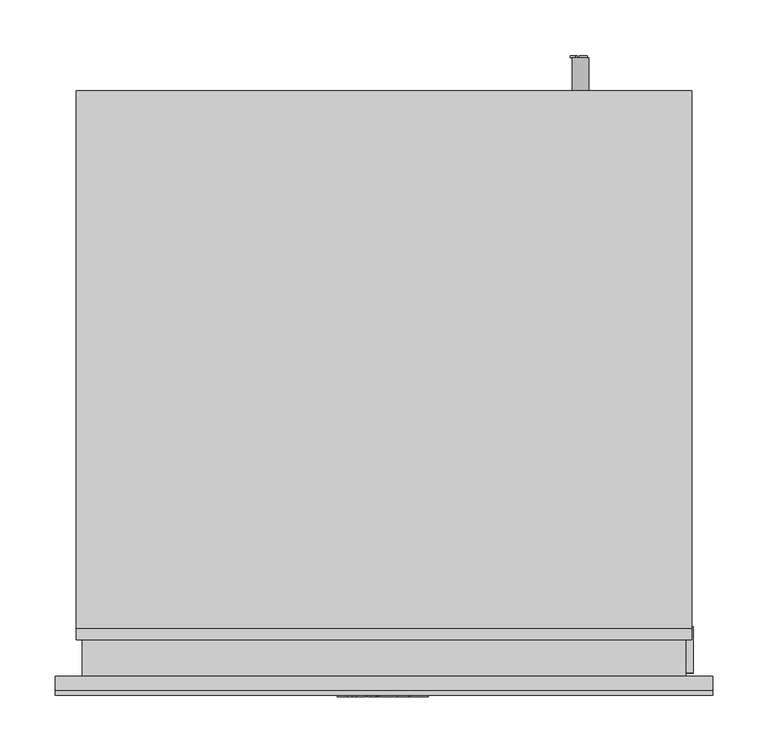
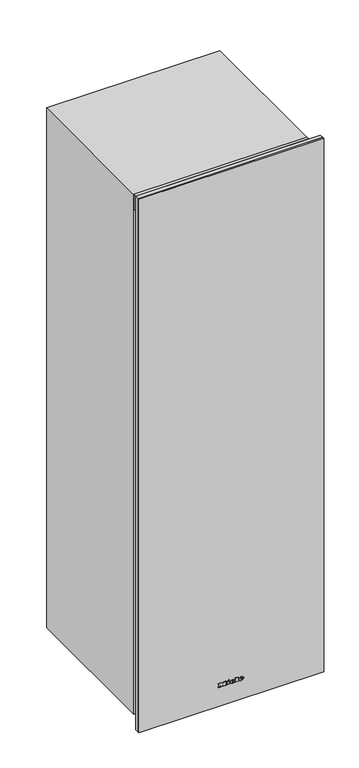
"""IFC4 building model written with IfcOpenShell, lengths in millimetres: proxy geometry, 12364310_EU1_KWT6722iGS-1_OBSW : 36672222_EU1_12364310_KWT6722iGS-1_OBSW."""

import ifcopenshell
import ifcopenshell.guid

model = None  # the IFC model being written
_history = None  # IfcOwnerHistory: only IFC2X3 demands one
_inside = {}  # id of a spatial element -> (the spatial element, [elements in it])
_under = {}  # id of a project, library or spatial element -> (it, [spatial elements below it])
_declared = {}  # id of a project -> (the project, [libraries it declares])
_typed = {}  # id of a type object -> (the type object, [elements of that type])
_made_of = {}  # id of a material, layer set ... -> (it, [elements and type objects made of it])


def new_model(schema):
    """Start an empty IFC model of exactly this schema.

    Asked for "IFC4X3", IfcOpenShell would pick the latest addendum, in which some entities
    have other attributes; the version numbers below select the first issue.
    IFC2X3 requires an IfcOwnerHistory on every rooted entity: one is made here for all.
    """
    global model, _history
    if schema == "IFC4X3":
        model = ifcopenshell.file(schema_version=(4, 3, 0, 0))
    else:
        model = ifcopenshell.file(schema=schema)
    _inside.clear()
    _under.clear()
    _declared.clear()
    _typed.clear()
    _made_of.clear()
    _history = None
    if model.schema == "IFC2X3":
        org = make("IfcOrganization", Name="unknown")
        user = make(
            "IfcPersonAndOrganization",
            ThePerson=make("IfcPerson", FamilyName="unknown"),
            TheOrganization=org,
        )
        app = make(
            "IfcApplication",
            ApplicationDeveloper=org,
            Version="unknown",
            ApplicationFullName="unknown",
            ApplicationIdentifier="unknown",
        )
        _history = make(
            "IfcOwnerHistory",
            OwningUser=user,
            OwningApplication=app,
            ChangeAction="ADDED",
            CreationDate=0,
        )
    return model


def make(cls, **values):
    """One entity of the class cls with the attributes given. An attribute that is None is left unset."""
    return model.create_entity(
        cls, **{name: value for name, value in values.items() if value is not None}
    )


def rooted(cls, **values):
    """An entity with a GlobalId (a new one), such as an element, a storey or a relation."""
    return make(cls, GlobalId=ifcopenshell.guid.new(), OwnerHistory=_history, **values)


def si_unit(unit_type, name, prefix=None):
    """IfcSIUnit, for example si_unit("LENGTHUNIT", "METRE", prefix="MILLI")."""
    return make("IfcSIUnit", UnitType=unit_type, Prefix=prefix, Name=name)


def assignment(units):
    """IfcUnitAssignment: the units of a project."""
    return None if units is None else make("IfcUnitAssignment", Units=units)


def point(xyz):
    """IfcCartesianPoint."""
    return None if xyz is None else make("IfcCartesianPoint", Coordinates=xyz)


def direction(xyz):
    """IfcDirection."""
    return None if xyz is None else make("IfcDirection", DirectionRatios=xyz)


def frame(location, z_axis=None, x_axis=None):
    """IfcAxis2Placement3D, a coordinate frame: its origin and axes. An axis left out is left unset."""
    return make(
        "IfcAxis2Placement3D",
        Location=point(location),
        Axis=direction(z_axis),
        RefDirection=direction(x_axis),
    )


def frame_2d(location, x_axis=None):
    """IfcAxis2Placement2D, a coordinate frame in the plane: its origin and x axis."""
    return make(
        "IfcAxis2Placement2D", Location=point(location), RefDirection=direction(x_axis)
    )


def origin():
    """The frame at (0, 0, 0) with its axes left unset."""
    return frame((0.0, 0.0, 0.0))


def place(relative_to, where):
    """IfcLocalPlacement: puts the frame where relative to a parent placement (None: the world)."""
    return make(
        "IfcLocalPlacement", PlacementRelTo=relative_to, RelativePlacement=where
    )


def context(
    kind, dimensions, precision=None, world=None, true_north=None, identifier=None
):
    """IfcGeometricRepresentationContext, for example the 3D "Model" context."""
    return make(
        "IfcGeometricRepresentationContext",
        ContextIdentifier=identifier,
        ContextType=kind,
        CoordinateSpaceDimension=dimensions,
        Precision=precision,
        WorldCoordinateSystem=world,
        TrueNorth=true_north,
    )


def project(units=None, contexts=None):
    """IfcProject with its units and contexts."""
    return rooted(
        "IfcProject",
        Name="project",
        RepresentationContexts=contexts,
        UnitsInContext=assignment(units),
    )


def spatial(cls, under=None, at=None, **own):
    """A site, building, storey or space (cls), placed at a placement, below another one or the project."""
    s = rooted(cls, ObjectPlacement=at, **own)
    if under is not None:
        _under.setdefault(under.id(), (under, []))[1].append(s)
    return s


def polyline(points):
    """IfcPolyline through the points."""
    return make("IfcPolyline", Points=[point(p) for p in points])


def circle_curve(where, radius):
    """IfcCircle in the frame where."""
    return make("IfcCircle", Position=where, Radius=radius)


def ellipse_curve(where, semi_axis1, semi_axis2):
    """IfcEllipse in the frame where."""
    return make(
        "IfcEllipse", Position=where, SemiAxis1=semi_axis1, SemiAxis2=semi_axis2
    )


def trimmed(basis, trim1, trim2, sense, master):
    """IfcTrimmedCurve: the piece of a basis curve between two trims."""
    return make(
        "IfcTrimmedCurve",
        BasisCurve=basis,
        Trim1=trim1,
        Trim2=trim2,
        SenseAgreement=sense,
        MasterRepresentation=master,
    )


def segment(curve, same_sense, transition):
    """IfcCompositeCurveSegment."""
    return make(
        "IfcCompositeCurveSegment",
        Transition=transition,
        SameSense=same_sense,
        ParentCurve=curve,
    )


def composite_curve(segments, self_intersect=None):
    """IfcCompositeCurve: segments joined end to end."""
    return make("IfcCompositeCurve", Segments=segments, SelfIntersect=self_intersect)


def outline(outer, holes=None, kind="AREA"):
    """IfcArbitraryClosedProfileDef: a profile drawn as a closed curve; with holes, ...WithVoids."""
    if holes is None:
        return make("IfcArbitraryClosedProfileDef", ProfileType=kind, OuterCurve=outer)
    return make(
        "IfcArbitraryProfileDefWithVoids",
        ProfileType=kind,
        OuterCurve=outer,
        InnerCurves=holes,
    )


def extrude(swept, where, along, depth):
    """IfcExtrudedAreaSolid: the profile swept, set in the frame where, extruded along a direction by depth."""
    return make(
        "IfcExtrudedAreaSolid",
        SweptArea=swept,
        Position=where,
        ExtrudedDirection=direction(along),
        Depth=depth,
    )


def faces_of(points, faces, orient=None, outer=None):
    """IfcFace entities. A face is a list of loops; a loop is a list of indices into points, from 0.

    orient and outer hold one flag for each loop. By default every Orientation is true, the
    first loop of a face is its IfcFaceOuterBound and the others are IfcFaceBound.
    """
    made = []
    for i, loops in enumerate(faces):
        bounds = []
        for j, loop in enumerate(loops):
            is_outer = j == 0 if outer is None else outer[i][j]
            bounds.append(
                make(
                    "IfcFaceOuterBound" if is_outer else "IfcFaceBound",
                    Bound=make("IfcPolyLoop", Polygon=[points[k] for k in loop]),
                    Orientation=True if orient is None else orient[i][j],
                )
            )
        made.append(make("IfcFace", Bounds=bounds))
    return made


def faceted_brep(points, faces, orient=None, outer=None, voids=None):
    """IfcFacetedBrep: a solid bounded by flat faces; with voids (closed shells), ...WithVoids."""
    shared = [point(p) for p in points]
    hull = make("IfcClosedShell", CfsFaces=faces_of(shared, faces, orient, outer))
    if voids is None:
        return make("IfcFacetedBrep", Outer=hull)
    return make(
        "IfcFacetedBrepWithVoids",
        Outer=hull,
        Voids=[
            make(cls, CfsFaces=faces_of(shared, fs, o, b)) for cls, fs, o, b in voids
        ],
    )


def shape(context_of_items, identifier, shape_type, items):
    """IfcShapeRepresentation: the items that make up one representation, for example the "Body"."""
    return make(
        "IfcShapeRepresentation",
        ContextOfItems=context_of_items,
        RepresentationIdentifier=identifier,
        RepresentationType=shape_type,
        Items=items,
    )


def source(mapping_origin, context_of_items, identifier, shape_type, items):
    """IfcRepresentationMap: a shape defined once, which mapped items show again and again."""
    return make(
        "IfcRepresentationMap",
        MappingOrigin=mapping_origin,
        MappedRepresentation=shape(context_of_items, identifier, shape_type, items),
    )


def transform(
    local_origin,
    x_axis=None,
    y_axis=None,
    z_axis=None,
    scale=None,
    scale2=None,
    scale3=None,
    uniform=True,
):
    """IfcCartesianTransformationOperator3D, or its non-uniform kind. x_axis, y_axis, z_axis: its Axis1, 2, 3."""
    if uniform:
        return make(
            "IfcCartesianTransformationOperator3D",
            Axis1=direction(x_axis),
            Axis2=direction(y_axis),
            LocalOrigin=point(local_origin),
            Scale=scale,
            Axis3=direction(z_axis),
        )
    return make(
        "IfcCartesianTransformationOperator3DnonUniform",
        Axis1=direction(x_axis),
        Axis2=direction(y_axis),
        LocalOrigin=point(local_origin),
        Scale=scale,
        Axis3=direction(z_axis),
        Scale2=scale2,
        Scale3=scale3,
    )


def mapped(mapping_source, mapping_target):
    """IfcMappedItem: shows the shape of a source again, moved by a transform."""
    return make(
        "IfcMappedItem", MappingSource=mapping_source, MappingTarget=mapping_target
    )


def made_of(thing, what):
    """Note that an element or type object is made of a material, layer set ...; save() writes the relation."""
    if what is not None:
        _made_of.setdefault(what.id(), (what, []))[1].append(thing)
    return thing


def element(
    cls,
    number,
    at=None,
    inside=None,
    cuts=None,
    type_object=None,
    material=None,
    context=None,
    identifier="Body",
    shape_type=None,
    held_by="IfcProductDefinitionShape",
    body=None,
    shapes=None,
    **own,
):
    """One element of the class cls, such as IfcWall. Its Tag is "e" and its number.

    at: its placement. inside: the storey or other place that contains it. cuts: it is an
    opening in that element (IfcRelVoidsElement). A single representation is given by context,
    identifier, shape_type and body (its items); several are given by shapes. held_by: the class
    of the entity that holds the representations. save() writes the other relations.
    """
    e = rooted(cls, Tag="e%d" % number, ObjectPlacement=at, **own)
    if body is not None:
        shapes = [shape(context, identifier, shape_type, body)]
    if shapes is not None:
        e.Representation = make(held_by, Representations=shapes)
    if inside is not None:
        _inside.setdefault(inside.id(), (inside, []))[1].append(e)
    if cuts is not None:
        rooted(
            "IfcRelVoidsElement", RelatingBuildingElement=cuts, RelatedOpeningElement=e
        )
    if type_object is not None:
        _typed.setdefault(type_object.id(), (type_object, []))[1].append(e)
    return made_of(e, material)


def aggregate(whole, parts):
    """IfcRelAggregates: a whole, such as a stair, and the parts it consists of."""
    return rooted("IfcRelAggregates", RelatingObject=whole, RelatedObjects=parts)


def save(model, path):
    """Write the relations noted so far, then the file.

    IfcRelAggregates (storeys below a building ...), IfcRelContainedInSpatialStructure (elements
    in a storey), IfcRelDefinesByType, IfcRelAssociatesMaterial and IfcRelDeclares: one each for
    every whole, place, type object, material and project.
    """
    for whole, parts in _under.values():
        aggregate(whole, parts)
    for where, things in _inside.values():
        rooted(
            "IfcRelContainedInSpatialStructure",
            RelatedElements=things,
            RelatingStructure=where,
        )
    for kind, things in _typed.values():
        rooted("IfcRelDefinesByType", RelatedObjects=things, RelatingType=kind)
    for what, things in _made_of.values():
        rooted("IfcRelAssociatesMaterial", RelatedObjects=things, RelatingMaterial=what)
    for by, libraries in _declared.values():
        rooted("IfcRelDeclares", RelatingContext=by, RelatedDefinitions=libraries)
    model.write(path)


def plane_surface(at):
    """IfcPlane: the flat surface through the origin of the frame at, square to its z axis."""
    return make("IfcPlane", Position=at)


def cylinder_surface(at, radius):
    """IfcCylindricalSurface: all points at the distance radius from the z axis of the frame at."""
    return make("IfcCylindricalSurface", Position=at, Radius=radius)


def revolved_surface(curve, axis_point, axis_direction):
    """IfcSurfaceOfRevolution: the curve turned about the line through axis_point along axis_direction."""
    return make(
        "IfcSurfaceOfRevolution",
        SweptCurve=make("IfcArbitraryOpenProfileDef", ProfileType="CURVE", Curve=curve),
        AxisPosition=make("IfcAxis1Placement", Location=point(axis_point), Axis=direction(axis_direction)),
    )


def extruded_surface(curve, direction_of_extrusion, depth):
    """IfcSurfaceOfLinearExtrusion: the curve pushed along a direction by depth."""
    return make(
        "IfcSurfaceOfLinearExtrusion",
        SweptCurve=make("IfcArbitraryOpenProfileDef", ProfileType="CURVE", Curve=curve),
        ExtrudedDirection=direction(direction_of_extrusion),
        Depth=depth,
    )


def advanced_brep(points, edges, surfaces, faces):
    """IfcAdvancedBrep: a solid bounded by faces that lie on surfaces and meet in shared edges.

    An edge is (start, end): straight between two places in points (the first is 0);
    or (start, end, curve); or (start, end, curve, False) where it runs against its curve.
    A face is (place in surfaces, loops), or (place, loops, False) where it looks against
    its surface's normal. A loop lists edges by number (the first is 1), with a minus sign
    where the edge is run from its end to its start. The first loop is the outer one.
    """
    corners = [point(p) for p in points]
    vertices = [make("IfcVertexPoint", VertexGeometry=c) for c in corners]
    made = []
    for start, end, *more in edges:
        made.append(
            make(
                "IfcEdgeCurve",
                EdgeStart=vertices[start],
                EdgeEnd=vertices[end],
                EdgeGeometry=more[0] if more else make("IfcPolyline", Points=[corners[start], corners[end]]),
                SameSense=more[1] if len(more) > 1 else True,
            )
        )
    hull = []
    for where, loops, *sense in faces:
        bounds = []
        for j, loop in enumerate(loops):
            ring = [make("IfcOrientedEdge", EdgeElement=made[abs(k) - 1], Orientation=k > 0) for k in loop]
            bounds.append(
                make(
                    "IfcFaceOuterBound" if j == 0 else "IfcFaceBound",
                    Bound=make("IfcEdgeLoop", EdgeList=ring),
                    Orientation=True,
                )
            )
        hull.append(make("IfcAdvancedFace", Bounds=bounds, FaceSurface=surfaces[where], SameSense=sense[0] if sense else True))
    return make("IfcAdvancedBrep", Outer=make("IfcClosedShell", CfsFaces=hull))


def specialty_equipment_56acea35(model_context):
    return source(origin(), model_context, "Body", "SolidModel", [
        faceted_brep([(-205.0, 427.167453, 1194.5725635), (-205.0, 92.832547, 1194.5725635), (-175.0, 92.832547, 1194.5725635), (-175.0, 105.2096606, 1194.5725635), (-140.0, 105.2096606, 1194.5725635), (-140.0, 92.832547, 1194.5725635), (-110.0, 92.832547, 1194.5725635), (-110.0, 427.167453, 1194.5725635), (-140.0, 427.167453, 1194.5725635), (-140.0, 415.167453, 1194.5725635), (-175.0, 415.167453, 1194.5725635), (-175.0, 427.167453, 1194.5725635), (-110.0, 427.167453, 1179.5725635), (-110.0, 92.832547, 1179.5725635), (-205.0, 92.832547, 1179.5725635), (-205.0, 427.167453, 1179.5725635), (-175.0, 427.167453, 1409.5725635), (-140.0, 427.167453, 1409.5725635), (-140.0, 92.832547, 1409.5725635), (-175.0, 92.832547, 1409.5725635), (-175.0, 415.167453, 1409.5725635), (-165.0, 415.167453, 1409.5725635), (-165.0, 105.2096606, 1409.5725635), (-175.0, 105.2096606, 1409.5725635), (-140.0, 105.2096606, 1409.5725635), (-158.7040205, 105.2096606, 1409.5725635), (-158.7040205, 415.167453, 1409.5725635), (-140.0, 415.167453, 1409.5725635), (-158.7040205, 415.167453, 1359.5725635), (-140.0, 415.167453, 1359.5725635), (-140.0, 415.167453, 1349.5725635), (-165.0, 415.167453, 1349.5725635), (-140.0, 105.2096606, 1359.5725635), (-140.0, 105.2096606, 1349.5725635), (-158.7040205, 105.2096606, 1359.5725635), (-165.0, 105.2096606, 1349.5725635)], [[[0, 1, 2, 3, 4, 5, 6, 7, 8, 9, 10, 11]], [[12, 13, 14, 15]], [[12, 15, 0, 11, 16, 17, 8, 7]], [[1, 0, 15, 14]], [[14, 13, 6, 5, 18, 19, 2, 1]], [[7, 6, 13, 12]], [[17, 16, 20, 21, 22, 23, 19, 18, 24, 25, 26, 27]], [[20, 16, 11, 10]], [[27, 26, 28, 29]], [[20, 10, 9, 30, 31, 21]], [[17, 27, 29, 32, 24, 18, 5, 4, 33, 30, 9, 8]], [[19, 23, 3, 2]], [[25, 24, 32, 34]], [[3, 23, 22, 35, 33, 4]], [[26, 25, 34, 28]], [[35, 31, 30, 33]], [[22, 21, 31, 35]], [[32, 29, 28, 34]]]),
        faceted_brep([(-230.0, 450.0, 1179.5725635), (-230.0, 70.0, 1179.5725635), (230.0, 70.0, 1179.5725635), (230.0, 450.0, 1179.5725635), (73.0, 448.5, 1179.5725635), (186.0, 448.5, 1179.5725635), (186.0, 368.5, 1179.5725635), (73.0, 368.5, 1179.5725635), (73.0, 351.0, 1179.5725635), (186.0, 351.0, 1179.5725635), (186.0, 269.0, 1179.5725635), (73.0, 269.0, 1179.5725635), (73.0, 251.0, 1179.5725635), (186.0, 251.0, 1179.5725635), (186.0, 171.0, 1179.5725635), (73.0, 171.0, 1179.5725635), (73.0, 153.0, 1179.5725635), (186.0, 153.0, 1179.5725635), (186.0, 73.0, 1179.5725635), (73.0, 73.0, 1179.5725635), (230.0, 450.0, 1170.0), (230.0, 70.0, 1170.0), (194.0, 70.0, 1170.0), (194.0, 450.0, 1170.0), (-230.0, 70.0, 1170.0), (-230.0, 450.0, 1170.0), (65.0, 450.0, 1170.0), (65.0, 70.0, 1170.0), (-230.0, 460.0, 1187.9661502), (230.0, 460.0, 1187.9661502), (230.0, 460.0, 1184.9661502), (-230.0, 460.0, 1184.9661502), (194.0, 460.0, 1101.0), (65.0, 460.0, 1101.0), (65.0, 460.0, 1161.9661502), (-230.0, 460.0, 1161.9661502), (-230.0, 460.0, 1164.9661502), (230.0, 460.0, 1164.9661502), (230.0, 460.0, 1161.9661502), (194.0, 460.0, 1161.9661502), (-230.0, 450.0, 1161.9661502), (-230.0, 70.0, 1161.9661502), (-230.0, 60.0, 1161.9661502), (-230.0, 60.0, 1164.9661502), (-230.0, 60.5645722, 1164.9661502), (-230.0, 60.5645722, 1184.9661502), (-230.0, 60.0, 1184.9661502), (-230.0, 60.0, 1187.9661502), (-230.0, 70.0, 1187.9661502), (-230.0, 450.0, 1187.9661502), (-230.0, 459.0, 1184.9661502), (-230.0, 459.0, 1164.9661502), (230.0, 60.0, 1187.9661502), (230.0, 60.0, 1184.9661502), (65.0, 60.0, 1101.0), (194.0, 60.0, 1101.0), (194.0, 60.0, 1161.9661502), (230.0, 60.0, 1161.9661502), (230.0, 60.0, 1164.9661502), (65.0, 60.0, 1161.9661502), (230.0, 450.0, 1187.9661502), (230.0, 70.0, 1187.9661502), (230.0, 60.5645722, 1184.9661502), (230.0, 60.5645722, 1164.9661502), (230.0, 70.0, 1161.9661502), (230.0, 450.0, 1161.9661502), (230.0, 459.0, 1164.9661502), (230.0, 459.0, 1184.9661502), (65.0, 450.0, 1161.9661502), (194.0, 450.0, 1161.9661502), (65.0, 70.0, 1161.9661502), (194.0, 70.0, 1161.9661502), (186.0, 448.5, 1128.9654333), (73.0, 448.5, 1128.9654333), (73.0, 368.5, 1128.9654333), (186.0, 368.5, 1128.9654333), (186.0, 351.0, 1128.9654333), (73.0, 351.0, 1128.9654333), (73.0, 269.0, 1128.9654333), (186.0, 269.0, 1128.9654333), (186.0, 251.0, 1128.9654333), (73.0, 251.0, 1128.9654333), (73.0, 171.0, 1128.9654333), (186.0, 171.0, 1128.9654333), (186.0, 153.0, 1128.9654333), (73.0, 153.0, 1128.9654333), (73.0, 73.0, 1128.9654333), (186.0, 73.0, 1128.9654333)], [[[0, 1, 2, 3], [4, 5, 6, 7], [8, 9, 10, 11], [12, 13, 14, 15], [16, 17, 18, 19]], [[20, 21, 22, 23]], [[24, 25, 26, 27]], [[28, 29, 30, 31]], [[32, 33, 34, 35, 36, 37, 38, 39]], [[35, 40, 25, 24, 41, 42, 43, 44, 45, 46, 47, 48, 1, 0, 49, 28, 31, 50, 51, 36]], [[52, 47, 46, 53]], [[54, 55, 56, 57, 58, 43, 42, 59]], [[29, 60, 3, 2, 61, 52, 53, 62, 63, 58, 57, 64, 21, 20, 65, 38, 37, 66, 67, 30]], [[60, 29, 28, 49]], [[25, 40, 68, 26]], [[65, 20, 23, 69]], [[60, 49, 0, 3]], [[40, 35, 34, 68]], [[38, 65, 69, 39]], [[52, 61, 48, 47]], [[42, 41, 70, 59]], [[64, 57, 56, 71]], [[41, 24, 27, 70]], [[21, 64, 71, 22]], [[48, 61, 2, 1]], [[54, 33, 32, 55]], [[33, 54, 59, 70, 27, 26, 68, 34]], [[55, 32, 39, 69, 23, 22, 71, 56]], [[72, 73, 74, 75]], [[76, 77, 78, 79]], [[80, 81, 82, 83]], [[84, 85, 86, 87]], [[73, 72, 5, 4]], [[74, 73, 4, 7]], [[75, 74, 7, 6]], [[72, 75, 6, 5]], [[77, 76, 9, 8]], [[78, 77, 8, 11]], [[79, 78, 11, 10]], [[76, 79, 10, 9]], [[81, 80, 13, 12]], [[82, 81, 12, 15]], [[83, 82, 15, 14]], [[80, 83, 14, 13]], [[85, 84, 17, 16]], [[86, 85, 16, 19]], [[87, 86, 19, 18]], [[84, 87, 18, 17]], [[62, 45, 44, 63]], [[45, 62, 53, 46]], [[63, 44, 43, 58]], [[66, 51, 50, 67]], [[51, 66, 37, 36]], [[67, 50, 31, 30]]]),
        advanced_brep(
        [(30.9909978, -1.0, 48.1245173), (30.9909978, -1.0, 49.4880173), (40.0224978, -1.0, 49.4880173), (24.3084978, -1.0, 49.4880173), (28.0209978, -1.0, 44.9250173), (39.7929978, -1.0, 48.1245173), (35.7159978, -1.0, 48.1245173), (32.5029978, -1.0, 46.6125173), (30.9909978, -1.0, 51.2160173), (30.9909978, -1.0, 52.6875173), (33.2994978, -1.0, 52.6875173), (33.2994978, -1.0, 51.2160173), (30.9909978, 0.0, 48.1245173), (32.5029978, 0.0, 46.6125173), (35.7159978, 0.0, 48.1245173), (39.7929978, 0.0, 48.1245173), (28.0209978, 0.0, 44.9250173), (24.3084978, 0.0, 49.4880173), (40.0224978, 0.0, 49.4880173), (30.9909978, 0.0, 49.4880173), (30.9909978, 0.0, 51.2160173), (33.2994978, 0.0, 51.2160173), (33.2994978, 0.0, 52.6875173), (30.9909978, 0.0, 52.6875173)],
        [
            (0, 1),
            (1, 2),
            (2, 3, ellipse_curve(frame((32.1654978, -1.0, 49.4880173), z_axis=(0.0, -1.0, 0.0), x_axis=(-1.0, 0.0, 0.0)), 7.857, 6.4935)),
            (3, 4, circle_curve(frame((29.5330714, -1.0, 49.9470173), z_axis=(0.0, -1.0, 0.0), x_axis=(0.0, 0.0, -1.0)), 5.2446974)),
            (4, 5, circle_curve(frame((32.008212, -1.0, 53.5110173), z_axis=(0.0, -1.0, 0.0), x_axis=(0.0, 0.0, -1.0)), 9.46664)),
            (5, 6),
            (6, 7, circle_curve(frame((33.1629096, -1.0, 49.3800173), z_axis=(0.0, 1.0, 0.0), x_axis=(0.0, 0.0, -1.0)), 2.8450905)),
            (7, 0, circle_curve(frame((32.5029978, -1.0, 48.1245173), z_axis=(0.0, 1.0, 0.0), x_axis=(0.0, 0.0, -1.0)), 1.512)),
            (8, 9),
            (9, 10, circle_curve(frame((32.1452478, -1.0, 52.6875173), z_axis=(0.0, 1.0, 0.0), x_axis=(0.0, 0.0, -1.0)), 1.15425)),
            (10, 11),
            (11, 8),
            (12, 13, circle_curve(frame((32.5029978, 0.0, 48.1245173), z_axis=(0.0, -1.0, 0.0), x_axis=(0.0, 0.0, -1.0)), 1.512)),
            (13, 14, circle_curve(frame((33.1629096, 0.0, 49.3800173), z_axis=(0.0, -1.0, 0.0), x_axis=(0.0, 0.0, -1.0)), 2.8450905)),
            (14, 15),
            (15, 16, circle_curve(frame((32.008212, 0.0, 53.5110173), z_axis=(0.0, 1.0, 0.0), x_axis=(0.0, 0.0, -1.0)), 9.46664)),
            (16, 17, circle_curve(frame((29.5330714, 0.0, 49.9470173), z_axis=(0.0, 1.0, 0.0), x_axis=(0.0, 0.0, -1.0)), 5.2446974)),
            (17, 18, ellipse_curve(frame((32.1654978, 0.0, 49.4880173), z_axis=(0.0, 1.0, 0.0), x_axis=(-1.0, 0.0, 0.0)), 7.857, 6.4935)),
            (18, 19),
            (19, 12),
            (20, 21),
            (21, 22),
            (22, 23, circle_curve(frame((32.1452478, 0.0, 52.6875173), z_axis=(0.0, -1.0, 0.0), x_axis=(0.0, 0.0, -1.0)), 1.15425)),
            (23, 20),
            (0, 12),
            (19, 1),
            (18, 2),
            (5, 15),
            (14, 6),
            (17, 3),
            (13, 7),
            (16, 4),
            (8, 20),
            (23, 9),
            (22, 10),
            (21, 11),
        ],
        [
            plane_surface(frame((30.9909978, -1.0, 49.4880173), z_axis=(0.0, -1.0, 0.0), x_axis=(0.0, 0.0, 1.0))),
            plane_surface(frame((30.9909978, 0.0, 49.4880173), z_axis=(0.0, 1.0, 0.0), x_axis=(0.0, 0.0, -1.0))),
            plane_surface(frame((30.9909978, -1.0, 48.1245173), z_axis=(1.0, 0.0, 0.0), x_axis=(0.0, 1.0, 0.0))),
            plane_surface(frame((30.9909978, -1.0, 49.4880173), z_axis=(0.0, 0.0, -1.0), x_axis=(0.0, 1.0, 0.0))),
            plane_surface(frame((39.7929978, -1.0, 48.1245173), z_axis=(0.0, 0.0, 1.0), x_axis=(0.0, 1.0, 0.0))),
            extruded_surface(trimmed(ellipse_curve(frame((32.1654978, 1.0, 49.4880173), z_axis=(0.0, -1.0, 0.0), x_axis=(-1.0, 0.0, 0.0)), 7.857, 6.4935), [point((40.0224978, 1.0, 49.4880173))], [point((24.3084978, 1.0, 49.4880173))], True, "CARTESIAN"), (0.0, -1.0, 0.0), 1.0),
            revolved_surface(polyline([(33.1629096, 0.0, 46.5349268), (33.1629096, -1.0, 46.5349268)]), (33.1629096, 0.0, 49.3800173), (0.0, 1.0, 0.0)),
            revolved_surface(polyline([(32.5029978, 0.0, 46.6125173), (32.5029978, -1.0, 46.6125173)]), (32.5029978, 0.0, 48.1245173), (0.0, 1.0, 0.0)),
            cylinder_surface(frame((29.5330714, 0.0, 49.9470173), z_axis=(0.0, -1.0, 0.0), x_axis=(0.0, 0.0, -1.0)), 5.2446974),
            cylinder_surface(frame((32.008212, 0.0, 53.5110173), z_axis=(0.0, -1.0, 0.0), x_axis=(0.0, 0.0, -1.0)), 9.46664),
            plane_surface(frame((30.9909978, -1.0, 51.2160173), z_axis=(1.0, 0.0, 0.0), x_axis=(0.0, 1.0, 0.0))),
            revolved_surface(polyline([(32.1452478, 0.0, 51.533267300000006), (32.1452478, -1.0, 51.533267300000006)]), (32.1452478, 0.0, 52.6875173), (0.0, 1.0, 0.0)),
            plane_surface(frame((33.2994978, -1.0, 52.6875173), z_axis=(-1.0, 0.0, 0.0), x_axis=(0.0, 1.0, 0.0))),
            plane_surface(frame((33.2994978, -1.0, 51.2160173), z_axis=(0.0, 0.0, 1.0), x_axis=(0.0, 1.0, 0.0))),
        ],
        [
            (0, [[1, 2, 3, 4, 5, 6, 7, 8], [9, 10, 11, 12]]),
            (1, [[13, 14, 15, 16, 17, 18, 19, 20], [21, 22, 23, 24]]),
            (2, [[-1, 25, -20, 26]]),
            (3, [[-2, -26, -19, 27]]),
            (4, [[-6, 28, -15, 29]]),
            (5, [[-3, -27, -18, 30]]),
            (6, [[-7, -29, -14, 31]]),
            (7, [[-8, -31, -13, -25]]),
            (8, [[-4, -30, -17, 32]]),
            (9, [[-5, -32, -16, -28]]),
            (10, [[-9, 33, -24, 34]]),
            (11, [[-10, -34, -23, 35]]),
            (12, [[-11, -35, -22, 36]]),
            (13, [[-12, -36, -21, -33]]),
        ],
    ),
        advanced_brep(
        [(2.8164978, -1.0, 48.1245173), (2.8164978, -1.0, 49.4880173), (11.8479978, -1.0, 49.4880173), (-3.8660022, -1.0, 49.4880173), (-0.1535022, -1.0, 44.9250173), (11.6184978, -1.0, 48.1245173), (7.5414978, -1.0, 48.1245173), (4.3284978, -1.0, 46.6125173), (2.8164978, -1.0, 51.2160173), (2.8164978, -1.0, 52.6875173), (5.1249978, -1.0, 52.6875173), (5.1249978, -1.0, 51.2160173), (2.8164978, 0.0, 48.1245173), (4.3284978, 0.0, 46.6125173), (7.5414978, 0.0, 48.1245173), (11.6184978, 0.0, 48.1245173), (-0.1535022, 0.0, 44.9250173), (-3.8660022, 0.0, 49.4880173), (11.8479978, 0.0, 49.4880173), (2.8164978, 0.0, 49.4880173), (2.8164978, 0.0, 51.2160173), (5.1249978, 0.0, 51.2160173), (5.1249978, 0.0, 52.6875173), (2.8164978, 0.0, 52.6875173)],
        [
            (0, 1),
            (1, 2),
            (2, 3, ellipse_curve(frame((3.9909978, -1.0, 49.4880173), z_axis=(0.0, -1.0, 0.0), x_axis=(-1.0, 0.0, 0.0)), 7.857, 6.4935)),
            (3, 4, circle_curve(frame((1.3585714, -1.0, 49.9470173), z_axis=(0.0, -1.0, 0.0), x_axis=(0.0, 0.0, -1.0)), 5.2446974)),
            (4, 5, circle_curve(frame((3.833712, -1.0, 53.5110173), z_axis=(0.0, -1.0, 0.0), x_axis=(0.0, 0.0, -1.0)), 9.46664)),
            (5, 6),
            (6, 7, circle_curve(frame((4.9884096, -1.0, 49.3800173), z_axis=(0.0, 1.0, 0.0), x_axis=(0.0, 0.0, -1.0)), 2.8450905)),
            (7, 0, circle_curve(frame((4.3284978, -1.0, 48.1245173), z_axis=(0.0, 1.0, 0.0), x_axis=(0.0, 0.0, -1.0)), 1.512)),
            (8, 9),
            (9, 10, circle_curve(frame((3.9707478, -1.0, 52.6875173), z_axis=(0.0, 1.0, 0.0), x_axis=(0.0, 0.0, -1.0)), 1.15425)),
            (10, 11),
            (11, 8),
            (12, 13, circle_curve(frame((4.3284978, 0.0, 48.1245173), z_axis=(0.0, -1.0, 0.0), x_axis=(0.0, 0.0, -1.0)), 1.512)),
            (13, 14, circle_curve(frame((4.9884096, 0.0, 49.3800173), z_axis=(0.0, -1.0, 0.0), x_axis=(0.0, 0.0, -1.0)), 2.8450905)),
            (14, 15),
            (15, 16, circle_curve(frame((3.833712, 0.0, 53.5110173), z_axis=(0.0, 1.0, 0.0), x_axis=(0.0, 0.0, -1.0)), 9.46664)),
            (16, 17, circle_curve(frame((1.3585714, 0.0, 49.9470173), z_axis=(0.0, 1.0, 0.0), x_axis=(0.0, 0.0, -1.0)), 5.2446974)),
            (17, 18, ellipse_curve(frame((3.9909978, 0.0, 49.4880173), z_axis=(0.0, 1.0, 0.0), x_axis=(-1.0, 0.0, 0.0)), 7.857, 6.4935)),
            (18, 19),
            (19, 12),
            (20, 21),
            (21, 22),
            (22, 23, circle_curve(frame((3.9707478, 0.0, 52.6875173), z_axis=(0.0, -1.0, 0.0), x_axis=(0.0, 0.0, -1.0)), 1.15425)),
            (23, 20),
            (0, 12),
            (19, 1),
            (18, 2),
            (5, 15),
            (14, 6),
            (17, 3),
            (13, 7),
            (16, 4),
            (8, 20),
            (23, 9),
            (22, 10),
            (21, 11),
        ],
        [
            plane_surface(frame((2.8164978, -1.0, 49.4880173), z_axis=(0.0, -1.0, 0.0), x_axis=(0.0, 0.0, 1.0))),
            plane_surface(frame((2.8164978, 0.0, 49.4880173), z_axis=(0.0, 1.0, 0.0), x_axis=(0.0, 0.0, -1.0))),
            plane_surface(frame((2.8164978, -1.0, 48.1245173), z_axis=(1.0, 0.0, 0.0), x_axis=(0.0, 1.0, 0.0))),
            plane_surface(frame((2.8164978, -1.0, 49.4880173), z_axis=(0.0, 0.0, -1.0), x_axis=(0.0, 1.0, 0.0))),
            plane_surface(frame((11.6184978, -1.0, 48.1245173), z_axis=(0.0, 0.0, 1.0), x_axis=(0.0, 1.0, 0.0))),
            extruded_surface(trimmed(ellipse_curve(frame((3.9909978, 1.0, 49.4880173), z_axis=(0.0, -1.0, 0.0), x_axis=(-1.0, 0.0, 0.0)), 7.857, 6.4935), [point((11.8479978, 1.0, 49.4880173))], [point((-3.8660022, 1.0, 49.4880173))], True, "CARTESIAN"), (0.0, -1.0, 0.0), 1.0),
            revolved_surface(polyline([(4.9884096, 0.0, 46.5349268), (4.9884096, -1.0, 46.5349268)]), (4.9884096, 0.0, 49.3800173), (0.0, 1.0, 0.0)),
            revolved_surface(polyline([(4.3284978, 0.0, 46.6125173), (4.3284978, -1.0, 46.6125173)]), (4.3284978, 0.0, 48.1245173), (0.0, 1.0, 0.0)),
            cylinder_surface(frame((1.3585714, 0.0, 49.9470173), z_axis=(0.0, -1.0, 0.0), x_axis=(0.0, 0.0, -1.0)), 5.2446974),
            cylinder_surface(frame((3.833712, 0.0, 53.5110173), z_axis=(0.0, -1.0, 0.0), x_axis=(0.0, 0.0, -1.0)), 9.46664),
            plane_surface(frame((2.8164978, -1.0, 51.2160173), z_axis=(1.0, 0.0, 0.0), x_axis=(0.0, 1.0, 0.0))),
            revolved_surface(polyline([(3.9707478, 0.0, 51.533267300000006), (3.9707478, -1.0, 51.533267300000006)]), (3.9707478, 0.0, 52.6875173), (0.0, 1.0, 0.0)),
            plane_surface(frame((5.1249978, -1.0, 52.6875173), z_axis=(-1.0, 0.0, 0.0), x_axis=(0.0, 1.0, 0.0))),
            plane_surface(frame((5.1249978, -1.0, 51.2160173), z_axis=(0.0, 0.0, 1.0), x_axis=(0.0, 1.0, 0.0))),
        ],
        [
            (0, [[1, 2, 3, 4, 5, 6, 7, 8], [9, 10, 11, 12]]),
            (1, [[13, 14, 15, 16, 17, 18, 19, 20], [21, 22, 23, 24]]),
            (2, [[-1, 25, -20, 26]]),
            (3, [[-2, -26, -19, 27]]),
            (4, [[-6, 28, -15, 29]]),
            (5, [[-3, -27, -18, 30]]),
            (6, [[-7, -29, -14, 31]]),
            (7, [[-8, -31, -13, -25]]),
            (8, [[-4, -30, -17, 32]]),
            (9, [[-5, -32, -16, -28]]),
            (10, [[-9, 33, -24, 34]]),
            (11, [[-10, -34, -23, 35]]),
            (12, [[-11, -35, -22, 36]]),
            (13, [[-12, -36, -21, -33]]),
        ],
    ),
        extrude(outline(polyline([(57.6285173, -11.9390022), (55.4415173, -10.9130022), (57.5745173, -6.3365022), (59.7615173, -7.3490022), (57.6285173, -11.9390022)])), frame((0.0, -1.0, 0.0), z_axis=(0.0, 1.0, 0.0), x_axis=(0.0, 0.0, 1.0)), (0.0, 0.0, 1.0), 1.0),
        extrude(outline(polyline([(55.1445173, -15.2735022), (52.7280173, -15.2735022), (52.7280173, -13.6670022), (47.1930173, -13.6670022), (47.1930173, -15.2735022), (44.9250173, -15.2735022), (44.9250173, -4.6220022), (47.1930173, -4.6220022), (47.1930173, -6.1880022), (55.1445173, -6.1880022), (55.1445173, -15.2735022)])), frame((0.0, -1.0, 0.0), z_axis=(0.0, 1.0, 0.0), x_axis=(0.0, 0.0, 1.0)), (0.0, 0.0, 1.0), 1.0),
        extrude(outline(polyline([(56.2245173, 12.6039978), (56.2245173, 14.2239978), (47.1930173, 14.2239978), (47.1930173, 12.6039978), (44.9250173, 12.6039978), (44.9250173, 23.5524978), (47.1930173, 23.5524978), (47.1930173, 21.8919978), (58.4250173, 21.8919978), (58.4250173, 12.6039978), (56.2245173, 12.6039978)])), frame((0.0, -1.0, 0.0), z_axis=(0.0, 1.0, 0.0), x_axis=(0.0, 0.0, 1.0)), (0.0, 0.0, 1.0), 1.0),
        extrude(outline(polyline([(56.2245173, -42.1790022), (56.2245173, -40.5455022), (47.1930173, -40.5455022), (47.1930173, -42.1790022), (44.9250173, -42.1790022), (44.9250173, -36.2390022), (47.1930173, -36.2390022), (47.1930173, -37.8590022), (52.900642, -37.8590022), (44.9250173, -31.8245022), (53.1777396, -25.7630022), (47.1930173, -25.7630022), (47.1930173, -27.4235022), (44.9250173, -27.4235022), (44.9250173, -16.6505022), (47.1930173, -16.6505022), (47.1930173, -18.3650022), (56.2245173, -18.3650022), (56.2245173, -16.6505022), (58.4250173, -16.6505022), (58.4250173, -24.8720022), (53.3625173, -28.8140022), (58.4250173, -32.7695022), (58.4250173, -42.1790022), (56.2245173, -42.1790022)])), frame((0.0, -1.0, 0.0), z_axis=(0.0, 1.0, 0.0), x_axis=(0.0, 0.0, 1.0)), (0.0, 0.0, 1.0), 1.0),
        extrude(outline(polyline([(0.0, -5.0), (0.0, 0.0), (342.0, 0.0), (342.0, -5.0), (0.0, -5.0)])), frame((171.0, 69.1703709, 967.2940952), z_axis=(0.0, 0.25881904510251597, 0.9659258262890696), x_axis=(-1.0, 0.0, 0.0)), (0.0, 0.0, 1.0), 48.0),
        extrude(outline(composite_curve([segment(trimmed(circle_curve(frame_2d((52.0, 178.0)), 7.5), [point((52.0, 185.5))], [point((52.0, 170.5))], False, "CARTESIAN"), True, "CONTINUOUS"), segment(trimmed(circle_curve(frame_2d((52.0, 178.0)), 7.5), [point((52.0, 170.5))], [point((52.0, 185.5))], False, "CARTESIAN"), True, "CONTINUOUS")], self_intersect=False)), frame((0.0, 547.0, 0.0), z_axis=(0.0, 1.0, 0.0), x_axis=(0.0, 0.0, 1.0)), (0.0, 0.0, 1.0), 30.0),
        faceted_brep([(278.5, 547.0, 1769.0), (-278.5, 547.0, 1769.0), (-278.5, 60.0, 1769.0), (278.5, 60.0, 1769.0), (278.5, 547.0, 0.0), (278.5, 60.0, 0.0), (-278.5, 60.0, 0.0), (-278.5, 547.0, 0.0), (-230.0, 60.0, 1680.0), (230.0, 60.0, 1680.0), (230.0, 60.0, 80.0), (-230.0, 60.0, 80.0), (230.0, 460.0, 1680.0), (-230.0, 460.0, 1680.0), (-230.0, 460.0, 80.0), (230.0, 460.0, 80.0)], [[[0, 1, 2, 3]], [[4, 5, 6, 7]], [[1, 0, 4, 7]], [[2, 1, 7, 6]], [[3, 2, 6, 5], [8, 9, 10, 11]], [[0, 3, 5, 4]], [[12, 13, 14, 15]], [[13, 12, 9, 8]], [[14, 13, 8, 11]], [[15, 14, 11, 10]], [[12, 15, 10, 9]]]),
        extrude(outline(polyline([(230.0, 339.0), (-230.0, 339.0), (-230.0, 460.0), (230.0, 460.0), (230.0, 339.0)])), frame((0.0, 0.0, 80.0), z_axis=(0.0, 0.0, 1.0), x_axis=(1.0, 0.0, 0.0)), (0.0, 0.0, 1.0), 205.0),
        extrude(outline(polyline([(47.2618945, 184.0941573), (57.3075256, 184.0941573), (57.3075256, 176.87386), (56.0518217, 176.87386), (56.0518217, 182.8384535), (53.069525, 182.8384535), (53.069525, 177.187786), (51.8138211, 177.187786), (51.8138211, 182.8384535), (48.5175984, 182.8384535), (48.5175984, 176.7168971), (47.2618945, 176.7168971), (47.2618945, 184.0941573)])), frame((0.0, 577.0, 0.0), z_axis=(0.0, 1.0, 0.0), x_axis=(0.0, 0.0, 1.0)), (0.0, 0.0, 1.0), 2.0),
        extrude(outline(polyline([(47.2618945, 174.8333412), (57.3075256, 174.8333412), (57.3075256, 173.5776374), (48.5175984, 173.5776374), (48.5175984, 168.5548219), (47.2618945, 168.5548219), (47.2618945, 174.8333412)])), frame((0.0, 577.0, 0.0), z_axis=(0.0, 1.0, 0.0), x_axis=(0.0, 0.0, 1.0)), (0.0, 0.0, 1.0), 2.0),
        extrude(outline(polyline([(-278.5, 60.0), (278.5, 60.0), (278.5, 50.0), (-278.5, 50.0), (-278.5, 60.0)])), frame((0.0, 0.0, 1720.0), z_axis=(0.0, 0.0, 1.0), x_axis=(1.0, 0.0, 0.0)), (0.0, 0.0, 1.0), 50.0),
        extrude(outline(polyline([(10.0, 67.0438353), (-10.0, 67.0438353), (-10.0, 460.0), (10.0, 460.0), (10.0, 67.0438353)])), frame((0.0, 0.0, 373.0), z_axis=(0.0, 0.0, 1.0), x_axis=(1.0, 0.0, 0.0)), (0.0, 0.0, 1.0), 10.0),
        extrude(outline(polyline([(-40.0, 67.0438353), (-60.0, 67.0438353), (-60.0, 460.0), (-40.0, 460.0), (-40.0, 67.0438353)])), frame((0.0, 0.0, 373.0), z_axis=(0.0, 0.0, 1.0), x_axis=(1.0, 0.0, 0.0)), (0.0, 0.0, 1.0), 10.0),
        extrude(outline(polyline([(-90.0, 67.0438353), (-110.0, 67.0438353), (-110.0, 460.0), (-90.0, 460.0), (-90.0, 67.0438353)])), frame((0.0, 0.0, 373.0), z_axis=(0.0, 0.0, 1.0), x_axis=(1.0, 0.0, 0.0)), (0.0, 0.0, 1.0), 10.0),
        extrude(outline(polyline([(-140.0, 67.0438353), (-160.0, 67.0438353), (-160.0, 460.0), (-140.0, 460.0), (-140.0, 67.0438353)])), frame((0.0, 0.0, 373.0), z_axis=(0.0, 0.0, 1.0), x_axis=(1.0, 0.0, 0.0)), (0.0, 0.0, 1.0), 10.0),
        extrude(outline(polyline([(-190.0, 67.0438353), (-210.0, 67.0438353), (-210.0, 460.0), (-190.0, 460.0), (-190.0, 67.0438353)])), frame((0.0, 0.0, 373.0), z_axis=(0.0, 0.0, 1.0), x_axis=(1.0, 0.0, 0.0)), (0.0, 0.0, 1.0), 10.0),
        extrude(outline(polyline([(60.0, 67.0438353), (40.0, 67.0438353), (40.0, 460.0), (60.0, 460.0), (60.0, 67.0438353)])), frame((0.0, 0.0, 373.0), z_axis=(0.0, 0.0, 1.0), x_axis=(1.0, 0.0, 0.0)), (0.0, 0.0, 1.0), 10.0),
        extrude(outline(polyline([(110.0, 67.0438353), (90.0, 67.0438353), (90.0, 460.0), (110.0, 460.0), (110.0, 67.0438353)])), frame((0.0, 0.0, 373.0), z_axis=(0.0, 0.0, 1.0), x_axis=(1.0, 0.0, 0.0)), (0.0, 0.0, 1.0), 10.0),
        extrude(outline(polyline([(160.0, 67.0438353), (140.0, 67.0438353), (140.0, 460.0), (160.0, 460.0), (160.0, 67.0438353)])), frame((0.0, 0.0, 373.0), z_axis=(0.0, 0.0, 1.0), x_axis=(1.0, 0.0, 0.0)), (0.0, 0.0, 1.0), 10.0),
        extrude(outline(polyline([(210.0, 67.0438353), (190.0, 67.0438353), (190.0, 460.0), (210.0, 460.0), (210.0, 67.0438353)])), frame((0.0, 0.0, 373.0), z_axis=(0.0, 0.0, 1.0), x_axis=(1.0, 0.0, 0.0)), (0.0, 0.0, 1.0), 10.0),
        extrude(outline(polyline([(10.0, 67.0438353), (-10.0, 67.0438353), (-10.0, 460.0), (10.0, 460.0), (10.0, 67.0438353)])), frame((0.0, 0.0, 533.0), z_axis=(0.0, 0.0, 1.0), x_axis=(1.0, 0.0, 0.0)), (0.0, 0.0, 1.0), 10.0),
        extrude(outline(polyline([(-40.0, 67.0438353), (-60.0, 67.0438353), (-60.0, 460.0), (-40.0, 460.0), (-40.0, 67.0438353)])), frame((0.0, 0.0, 533.0), z_axis=(0.0, 0.0, 1.0), x_axis=(1.0, 0.0, 0.0)), (0.0, 0.0, 1.0), 10.0),
        extrude(outline(polyline([(-90.0, 67.0438353), (-110.0, 67.0438353), (-110.0, 460.0), (-90.0, 460.0), (-90.0, 67.0438353)])), frame((0.0, 0.0, 533.0), z_axis=(0.0, 0.0, 1.0), x_axis=(1.0, 0.0, 0.0)), (0.0, 0.0, 1.0), 10.0),
        extrude(outline(polyline([(-140.0, 67.0438353), (-160.0, 67.0438353), (-160.0, 460.0), (-140.0, 460.0), (-140.0, 67.0438353)])), frame((0.0, 0.0, 533.0), z_axis=(0.0, 0.0, 1.0), x_axis=(1.0, 0.0, 0.0)), (0.0, 0.0, 1.0), 10.0),
        extrude(outline(polyline([(-190.0, 67.0438353), (-210.0, 67.0438353), (-210.0, 460.0), (-190.0, 460.0), (-190.0, 67.0438353)])), frame((0.0, 0.0, 533.0), z_axis=(0.0, 0.0, 1.0), x_axis=(1.0, 0.0, 0.0)), (0.0, 0.0, 1.0), 10.0),
        extrude(outline(polyline([(60.0, 67.0438353), (40.0, 67.0438353), (40.0, 460.0), (60.0, 460.0), (60.0, 67.0438353)])), frame((0.0, 0.0, 533.0), z_axis=(0.0, 0.0, 1.0), x_axis=(1.0, 0.0, 0.0)), (0.0, 0.0, 1.0), 10.0),
        extrude(outline(polyline([(110.0, 67.0438353), (90.0, 67.0438353), (90.0, 460.0), (110.0, 460.0), (110.0, 67.0438353)])), frame((0.0, 0.0, 533.0), z_axis=(0.0, 0.0, 1.0), x_axis=(1.0, 0.0, 0.0)), (0.0, 0.0, 1.0), 10.0),
        extrude(outline(polyline([(160.0, 67.0438353), (140.0, 67.0438353), (140.0, 460.0), (160.0, 460.0), (160.0, 67.0438353)])), frame((0.0, 0.0, 533.0), z_axis=(0.0, 0.0, 1.0), x_axis=(1.0, 0.0, 0.0)), (0.0, 0.0, 1.0), 10.0),
        extrude(outline(polyline([(210.0, 67.0438353), (190.0, 67.0438353), (190.0, 460.0), (210.0, 460.0), (210.0, 67.0438353)])), frame((0.0, 0.0, 533.0), z_axis=(0.0, 0.0, 1.0), x_axis=(1.0, 0.0, 0.0)), (0.0, 0.0, 1.0), 10.0),
        extrude(outline(polyline([(10.0, 64.8678355), (-10.0, 64.8678355), (-10.0, 339.0), (10.0, 339.0), (10.0, 64.8678355)])), frame((0.0, 0.0, 97.0), z_axis=(0.0, 0.0, 1.0), x_axis=(1.0, 0.0, 0.0)), (0.0, 0.0, 1.0), 10.0),
        extrude(outline(polyline([(-40.0, 64.8678355), (-60.0, 64.8678355), (-60.0, 339.0), (-40.0, 339.0), (-40.0, 64.8678355)])), frame((0.0, 0.0, 97.0), z_axis=(0.0, 0.0, 1.0), x_axis=(1.0, 0.0, 0.0)), (0.0, 0.0, 1.0), 10.0),
        extrude(outline(polyline([(-90.0, 64.8678355), (-110.0, 64.8678355), (-110.0, 339.0), (-90.0, 339.0), (-90.0, 64.8678355)])), frame((0.0, 0.0, 97.0), z_axis=(0.0, 0.0, 1.0), x_axis=(1.0, 0.0, 0.0)), (0.0, 0.0, 1.0), 10.0),
        extrude(outline(polyline([(-140.0, 64.8678355), (-160.0, 64.8678355), (-160.0, 339.0), (-140.0, 339.0), (-140.0, 64.8678355)])), frame((0.0, 0.0, 97.0), z_axis=(0.0, 0.0, 1.0), x_axis=(1.0, 0.0, 0.0)), (0.0, 0.0, 1.0), 10.0),
        extrude(outline(polyline([(-190.0, 64.8678355), (-210.0, 64.8678355), (-210.0, 339.0), (-190.0, 339.0), (-190.0, 64.8678355)])), frame((0.0, 0.0, 97.0), z_axis=(0.0, 0.0, 1.0), x_axis=(1.0, 0.0, 0.0)), (0.0, 0.0, 1.0), 10.0),
        extrude(outline(polyline([(60.0, 64.8678355), (40.0, 64.8678355), (40.0, 339.0), (60.0, 339.0), (60.0, 64.8678355)])), frame((0.0, 0.0, 97.0), z_axis=(0.0, 0.0, 1.0), x_axis=(1.0, 0.0, 0.0)), (0.0, 0.0, 1.0), 10.0),
        extrude(outline(polyline([(110.0, 64.8678355), (90.0, 64.8678355), (90.0, 339.0), (110.0, 339.0), (110.0, 64.8678355)])), frame((0.0, 0.0, 97.0), z_axis=(0.0, 0.0, 1.0), x_axis=(1.0, 0.0, 0.0)), (0.0, 0.0, 1.0), 10.0),
        extrude(outline(polyline([(160.0, 64.8678355), (140.0, 64.8678355), (140.0, 339.0), (160.0, 339.0), (160.0, 64.8678355)])), frame((0.0, 0.0, 97.0), z_axis=(0.0, 0.0, 1.0), x_axis=(1.0, 0.0, 0.0)), (0.0, 0.0, 1.0), 10.0),
        extrude(outline(polyline([(210.0, 64.8678355), (190.0, 64.8678355), (190.0, 339.0), (210.0, 339.0), (210.0, 64.8678355)])), frame((0.0, 0.0, 97.0), z_axis=(0.0, 0.0, 1.0), x_axis=(1.0, 0.0, 0.0)), (0.0, 0.0, 1.0), 10.0),
        extrude(outline(polyline([(70.0, 953.0), (70.0, 963.0), (86.0769515, 1023.0), (460.0, 1023.0), (460.0, 953.0), (70.0, 953.0)])), frame((-230.0, 0.0, 0.0), z_axis=(1.0, 0.0, 0.0), x_axis=(0.0, 1.0, 0.0)), (0.0, 0.0, 1.0), 460.0),
        extrude(outline(polyline([(10.0, 67.0438353), (-10.0, 67.0438353), (-10.0, 460.0), (10.0, 460.0), (10.0, 67.0438353)])), frame((0.0, 0.0, 1556.0), z_axis=(0.0, 0.0, 1.0), x_axis=(1.0, 0.0, 0.0)), (0.0, 0.0, 1.0), 10.0),
        extrude(outline(polyline([(-40.0, 67.0438353), (-60.0, 67.0438353), (-60.0, 460.0), (-40.0, 460.0), (-40.0, 67.0438353)])), frame((0.0, 0.0, 1556.0), z_axis=(0.0, 0.0, 1.0), x_axis=(1.0, 0.0, 0.0)), (0.0, 0.0, 1.0), 10.0),
        extrude(outline(polyline([(-90.0, 67.0438353), (-110.0, 67.0438353), (-110.0, 460.0), (-90.0, 460.0), (-90.0, 67.0438353)])), frame((0.0, 0.0, 1556.0), z_axis=(0.0, 0.0, 1.0), x_axis=(1.0, 0.0, 0.0)), (0.0, 0.0, 1.0), 10.0),
        extrude(outline(polyline([(-140.0, 67.0438353), (-160.0, 67.0438353), (-160.0, 460.0), (-140.0, 460.0), (-140.0, 67.0438353)])), frame((0.0, 0.0, 1556.0), z_axis=(0.0, 0.0, 1.0), x_axis=(1.0, 0.0, 0.0)), (0.0, 0.0, 1.0), 10.0),
        extrude(outline(polyline([(-190.0, 67.0438353), (-210.0, 67.0438353), (-210.0, 460.0), (-190.0, 460.0), (-190.0, 67.0438353)])), frame((0.0, 0.0, 1556.0), z_axis=(0.0, 0.0, 1.0), x_axis=(1.0, 0.0, 0.0)), (0.0, 0.0, 1.0), 10.0),
        extrude(outline(polyline([(60.0, 67.0438353), (40.0, 67.0438353), (40.0, 460.0), (60.0, 460.0), (60.0, 67.0438353)])), frame((0.0, 0.0, 1556.0), z_axis=(0.0, 0.0, 1.0), x_axis=(1.0, 0.0, 0.0)), (0.0, 0.0, 1.0), 10.0),
        extrude(outline(polyline([(110.0, 67.0438353), (90.0, 67.0438353), (90.0, 460.0), (110.0, 460.0), (110.0, 67.0438353)])), frame((0.0, 0.0, 1556.0), z_axis=(0.0, 0.0, 1.0), x_axis=(1.0, 0.0, 0.0)), (0.0, 0.0, 1.0), 10.0),
        extrude(outline(polyline([(160.0, 67.0438353), (140.0, 67.0438353), (140.0, 460.0), (160.0, 460.0), (160.0, 67.0438353)])), frame((0.0, 0.0, 1556.0), z_axis=(0.0, 0.0, 1.0), x_axis=(1.0, 0.0, 0.0)), (0.0, 0.0, 1.0), 10.0),
        extrude(outline(polyline([(210.0, 67.0438353), (190.0, 67.0438353), (190.0, 460.0), (210.0, 460.0), (210.0, 67.0438353)])), frame((0.0, 0.0, 1556.0), z_axis=(0.0, 0.0, 1.0), x_axis=(1.0, 0.0, 0.0)), (0.0, 0.0, 1.0), 10.0),
        extrude(outline(polyline([(10.0, 67.0438353), (-10.0, 67.0438353), (-10.0, 460.0), (10.0, 460.0), (10.0, 67.0438353)])), frame((0.0, 0.0, 853.0), z_axis=(0.0, 0.0, 1.0), x_axis=(1.0, 0.0, 0.0)), (0.0, 0.0, 1.0), 10.0),
        extrude(outline(polyline([(-40.0, 67.0438353), (-60.0, 67.0438353), (-60.0, 460.0), (-40.0, 460.0), (-40.0, 67.0438353)])), frame((0.0, 0.0, 853.0), z_axis=(0.0, 0.0, 1.0), x_axis=(1.0, 0.0, 0.0)), (0.0, 0.0, 1.0), 10.0),
        extrude(outline(polyline([(-90.0, 67.0438353), (-110.0, 67.0438353), (-110.0, 460.0), (-90.0, 460.0), (-90.0, 67.0438353)])), frame((0.0, 0.0, 853.0), z_axis=(0.0, 0.0, 1.0), x_axis=(1.0, 0.0, 0.0)), (0.0, 0.0, 1.0), 10.0),
        extrude(outline(polyline([(-140.0, 67.0438353), (-160.0, 67.0438353), (-160.0, 460.0), (-140.0, 460.0), (-140.0, 67.0438353)])), frame((0.0, 0.0, 853.0), z_axis=(0.0, 0.0, 1.0), x_axis=(1.0, 0.0, 0.0)), (0.0, 0.0, 1.0), 10.0),
        extrude(outline(polyline([(-190.0, 67.0438353), (-210.0, 67.0438353), (-210.0, 460.0), (-190.0, 460.0), (-190.0, 67.0438353)])), frame((0.0, 0.0, 853.0), z_axis=(0.0, 0.0, 1.0), x_axis=(1.0, 0.0, 0.0)), (0.0, 0.0, 1.0), 10.0),
        extrude(outline(polyline([(60.0, 67.0438353), (40.0, 67.0438353), (40.0, 460.0), (60.0, 460.0), (60.0, 67.0438353)])), frame((0.0, 0.0, 853.0), z_axis=(0.0, 0.0, 1.0), x_axis=(1.0, 0.0, 0.0)), (0.0, 0.0, 1.0), 10.0),
        extrude(outline(polyline([(110.0, 67.0438353), (90.0, 67.0438353), (90.0, 460.0), (110.0, 460.0), (110.0, 67.0438353)])), frame((0.0, 0.0, 853.0), z_axis=(0.0, 0.0, 1.0), x_axis=(1.0, 0.0, 0.0)), (0.0, 0.0, 1.0), 10.0),
        extrude(outline(polyline([(160.0, 67.0438353), (140.0, 67.0438353), (140.0, 460.0), (160.0, 460.0), (160.0, 67.0438353)])), frame((0.0, 0.0, 853.0), z_axis=(0.0, 0.0, 1.0), x_axis=(1.0, 0.0, 0.0)), (0.0, 0.0, 1.0), 10.0),
        extrude(outline(polyline([(210.0, 67.0438353), (190.0, 67.0438353), (190.0, 460.0), (210.0, 460.0), (210.0, 67.0438353)])), frame((0.0, 0.0, 853.0), z_axis=(0.0, 0.0, 1.0), x_axis=(1.0, 0.0, 0.0)), (0.0, 0.0, 1.0), 10.0),
        extrude(outline(polyline([(10.0, 67.0438353), (-10.0, 67.0438353), (-10.0, 460.0), (10.0, 460.0), (10.0, 67.0438353)])), frame((0.0, 0.0, 693.0), z_axis=(0.0, 0.0, 1.0), x_axis=(1.0, 0.0, 0.0)), (0.0, 0.0, 1.0), 10.0),
        extrude(outline(polyline([(-40.0, 67.0438353), (-60.0, 67.0438353), (-60.0, 460.0), (-40.0, 460.0), (-40.0, 67.0438353)])), frame((0.0, 0.0, 693.0), z_axis=(0.0, 0.0, 1.0), x_axis=(1.0, 0.0, 0.0)), (0.0, 0.0, 1.0), 10.0),
        extrude(outline(polyline([(-90.0, 67.0438353), (-110.0, 67.0438353), (-110.0, 460.0), (-90.0, 460.0), (-90.0, 67.0438353)])), frame((0.0, 0.0, 693.0), z_axis=(0.0, 0.0, 1.0), x_axis=(1.0, 0.0, 0.0)), (0.0, 0.0, 1.0), 10.0),
        extrude(outline(polyline([(-140.0, 67.0438353), (-160.0, 67.0438353), (-160.0, 460.0), (-140.0, 460.0), (-140.0, 67.0438353)])), frame((0.0, 0.0, 693.0), z_axis=(0.0, 0.0, 1.0), x_axis=(1.0, 0.0, 0.0)), (0.0, 0.0, 1.0), 10.0),
        extrude(outline(polyline([(-190.0, 67.0438353), (-210.0, 67.0438353), (-210.0, 460.0), (-190.0, 460.0), (-190.0, 67.0438353)])), frame((0.0, 0.0, 693.0), z_axis=(0.0, 0.0, 1.0), x_axis=(1.0, 0.0, 0.0)), (0.0, 0.0, 1.0), 10.0),
        extrude(outline(polyline([(60.0, 67.0438353), (40.0, 67.0438353), (40.0, 460.0), (60.0, 460.0), (60.0, 67.0438353)])), frame((0.0, 0.0, 693.0), z_axis=(0.0, 0.0, 1.0), x_axis=(1.0, 0.0, 0.0)), (0.0, 0.0, 1.0), 10.0),
        extrude(outline(polyline([(110.0, 67.0438353), (90.0, 67.0438353), (90.0, 460.0), (110.0, 460.0), (110.0, 67.0438353)])), frame((0.0, 0.0, 693.0), z_axis=(0.0, 0.0, 1.0), x_axis=(1.0, 0.0, 0.0)), (0.0, 0.0, 1.0), 10.0),
        extrude(outline(polyline([(160.0, 67.0438353), (140.0, 67.0438353), (140.0, 460.0), (160.0, 460.0), (160.0, 67.0438353)])), frame((0.0, 0.0, 693.0), z_axis=(0.0, 0.0, 1.0), x_axis=(1.0, 0.0, 0.0)), (0.0, 0.0, 1.0), 10.0),
        extrude(outline(polyline([(210.0, 67.0438353), (190.0, 67.0438353), (190.0, 460.0), (210.0, 460.0), (210.0, 67.0438353)])), frame((0.0, 0.0, 693.0), z_axis=(0.0, 0.0, 1.0), x_axis=(1.0, 0.0, 0.0)), (0.0, 0.0, 1.0), 10.0),
        extrude(outline(polyline([(70.0, 1574.3781397), (70.0, 1548.0), (60.0, 1548.0), (60.0, 1551.0), (60.8925608, 1551.0), (60.8925608, 1570.7661331), (60.0, 1570.7661331), (60.0, 1574.3781397), (70.0, 1574.3781397)])), frame((-230.0, 0.0, 0.0), z_axis=(1.0, 0.0, 0.0), x_axis=(0.0, 1.0, 0.0)), (0.0, 0.0, 1.0), 460.0),
        extrude(outline(polyline([(70.0, 871.3781397), (70.0, 845.0), (60.0, 845.0), (60.0, 848.0), (60.8925608, 848.0), (60.8925608, 867.7661331), (60.0, 867.7661331), (60.0, 871.3781397), (70.0, 871.3781397)])), frame((-230.0, 0.0, 0.0), z_axis=(1.0, 0.0, 0.0), x_axis=(0.0, 1.0, 0.0)), (0.0, 0.0, 1.0), 460.0),
        extrude(outline(polyline([(70.0, 711.3781397), (70.0, 685.0), (60.0, 685.0), (60.0, 688.0), (60.8925608, 688.0), (60.8925608, 707.7661331), (60.0, 707.7661331), (60.0, 711.3781397), (70.0, 711.3781397)])), frame((-230.0, 0.0, 0.0), z_axis=(1.0, 0.0, 0.0), x_axis=(0.0, 1.0, 0.0)), (0.0, 0.0, 1.0), 460.0),
        extrude(outline(polyline([(70.0, 551.3781397), (70.0, 525.0), (60.0, 525.0), (60.0, 528.0), (60.8925608, 528.0), (60.8925608, 547.7661331), (60.0, 547.7661331), (60.0, 551.3781397), (70.0, 551.3781397)])), frame((-230.0, 0.0, 0.0), z_axis=(1.0, 0.0, 0.0), x_axis=(0.0, 1.0, 0.0)), (0.0, 0.0, 1.0), 460.0),
        extrude(outline(polyline([(70.0, 391.3781397), (70.0, 365.0), (60.0, 365.0), (60.0, 368.0), (60.8925608, 368.0), (60.8925608, 387.7661331), (60.0, 387.7661331), (60.0, 391.3781397), (70.0, 391.3781397)])), frame((-230.0, 0.0, 0.0), z_axis=(1.0, 0.0, 0.0), x_axis=(0.0, 1.0, 0.0)), (0.0, 0.0, 1.0), 460.0),
        extrude(outline(polyline([(70.0, 115.3781397), (70.0, 89.0), (60.0, 89.0), (60.0, 92.0), (60.8925608, 92.0), (60.8925608, 111.7661331), (60.0, 111.7661331), (60.0, 115.3781397), (70.0, 115.3781397)])), frame((-230.0, 0.0, 0.0), z_axis=(1.0, 0.0, 0.0), x_axis=(0.0, 1.0, 0.0)), (0.0, 0.0, 1.0), 460.0),
        extrude(outline(polyline([(14.5, 273.0), (1767.5, 273.0), (1767.5, -273.0), (14.5, -273.0), (14.5, 273.0)]), holes=[polyline([(1652.0, 197.0), (117.0, 197.0), (117.0, -197.0), (1652.0, -197.0), (1652.0, 197.0)])]), frame((0.0, 17.0, 0.0), z_axis=(0.0, 1.0, 0.0), x_axis=(0.0, 0.0, 1.0)), (0.0, 0.0, 1.0), 43.0),
        extrude(outline(polyline([(-197.0, 60.0), (197.0, 60.0), (197.0, 17.0), (-197.0, 17.0), (-197.0, 60.0)])), frame((0.0, 0.0, 117.0), z_axis=(0.0, 0.0, 1.0), x_axis=(1.0, 0.0, 0.0)), (0.0, 0.0, 1.0), 1535.0),
        extrude(outline(polyline([(184.0, 62.0), (280.0, 62.0), (280.0, 20.0), (184.0, 20.0), (184.0, 62.0)])), frame((0.0, 0.0, 1728.0), z_axis=(0.0, 0.0, 1.0), x_axis=(1.0, 0.0, 0.0)), (0.0, 0.0, 1.0), 33.0),
        extrude(outline(polyline([(184.0, 62.0), (280.0, 62.0), (280.0, 20.0), (184.0, 20.0), (184.0, 62.0)])), frame((0.0, 0.0, 8.0), z_axis=(0.0, 0.0, 1.0), x_axis=(1.0, 0.0, 0.0)), (0.0, 0.0, 1.0), 33.0),
        extrude(outline(polyline([(297.5, 0.0), (-297.5, 0.0), (-297.5, 4.0), (297.5, 4.0), (297.5, 0.0)])), frame((0.0, 0.0, -20.0), z_axis=(0.0, 0.0, 1.0), x_axis=(1.0, 0.0, 0.0)), (0.0, 0.0, 1.0), 1816.5),
        extrude(outline(polyline([(1796.5, 297.5), (1796.5, -297.5), (-20.0, -297.5), (-20.0, 297.5), (1796.5, 297.5)]), holes=[polyline([(1652.0, 197.0), (117.0, 197.0), (117.0, -197.0), (1652.0, -197.0), (1652.0, 197.0)])]), frame((0.0, 4.0, 0.0), z_axis=(0.0, 1.0, 0.0), x_axis=(0.0, 0.0, 1.0)), (0.0, 0.0, 1.0), 13.0),
        extrude(outline(polyline([(-197.0, 17.0), (197.0, 17.0), (197.0, 4.0), (-197.0, 4.0), (-197.0, 17.0)])), frame((0.0, 0.0, 117.0), z_axis=(0.0, 0.0, 1.0), x_axis=(1.0, 0.0, 0.0)), (0.0, 0.0, 1.0), 1535.0),
    ])


if __name__ == "__main__":
    model = new_model("IFC4")
    model_context = context("Model", 3, world=origin())
    ifc_project = project(units=[si_unit("LENGTHUNIT", "METRE", prefix="MILLI")], contexts=[model_context])
    site = spatial("IfcSite", under=ifc_project)
    building = spatial("IfcBuilding", under=site)
    placement = place(None, origin())
    specialty_equipment_shape = specialty_equipment_56acea35(model_context)
    element("IfcBuildingElementProxy", 1, Name="12364310_EU1_KWT6722iGS-1_OBSW : 36672222_EU1_12364310_KWT6722iGS-1_OBSW", ObjectType="12364310_EU1_KWT6722iGS-1_OBSW : 36672222_EU1_12364310_KWT6722iGS-1_OBSW", at=placement, inside=building, context=model_context, shape_type="MappedRepresentation", body=[
        mapped(specialty_equipment_shape, transform((0.0, 0.0, 0.0), x_axis=(1.0, 0.0, 0.0), y_axis=(0.0, 1.0, 0.0), z_axis=(0.0, 0.0, 1.0))),
    ])
    save(model, "model.ifc")
